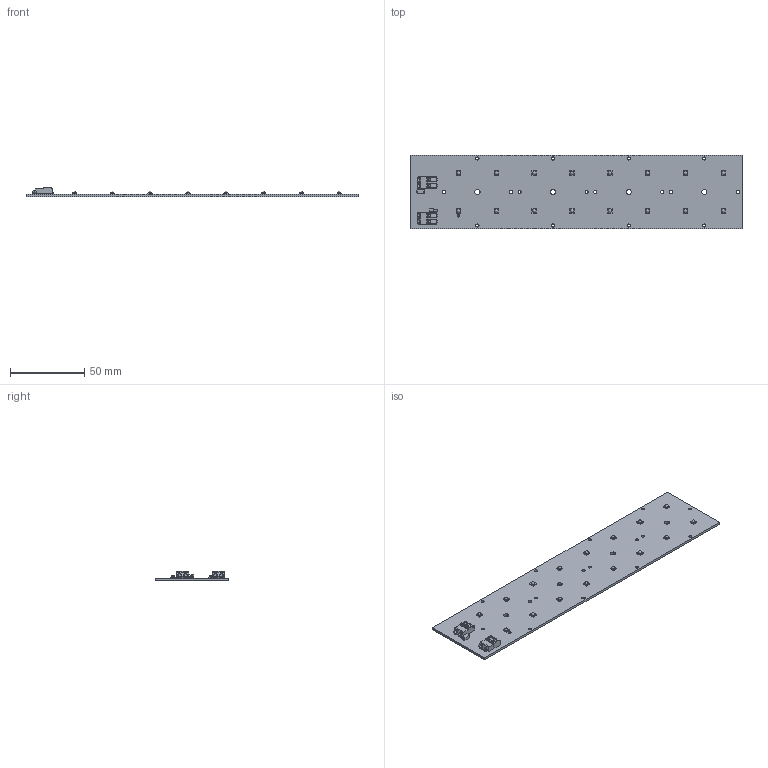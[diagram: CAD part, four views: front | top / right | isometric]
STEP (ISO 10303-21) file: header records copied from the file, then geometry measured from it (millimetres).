
FILE_DESCRIPTION((''),'2;1');
FILE_NAME('16207845_RLE_2X8_EXC2_OTD','2021-11-08T14:04:51',('Bernhard.Fink'),(''),'CREO PARAMETRIC BY PTC INC, 2019164','CREO PARAMETRIC BY PTC INC, 2019164','');
FILE_SCHEMA(('CONFIG_CONTROL_DESIGN'));
Length unit declared in the file: millimetre
Products named in the file (1): 16207845_RLE_2X8_EXC2_OTD
Bounding box: 223 x 49.5 x 6.15 mm (x, y, z)
Volume: 18837.1 mm3; surface area: 24421.5 mm2
Topology: 1 solids, 1 shells, 603 faces, 1698 edges, 1108 vertices
Faces by surface type: plane 375, cylinder 204, sphere 24
Entity records: 19494 total; most frequent: CARTESIAN_POINT 3575, ORIENTED_EDGE 3324, DIRECTION 3276, EDGE_CURVE 1662, VECTOR 1178, LINE 1178, VERTEX_POINT 1108, AXIS2_PLACEMENT_3D 1049
